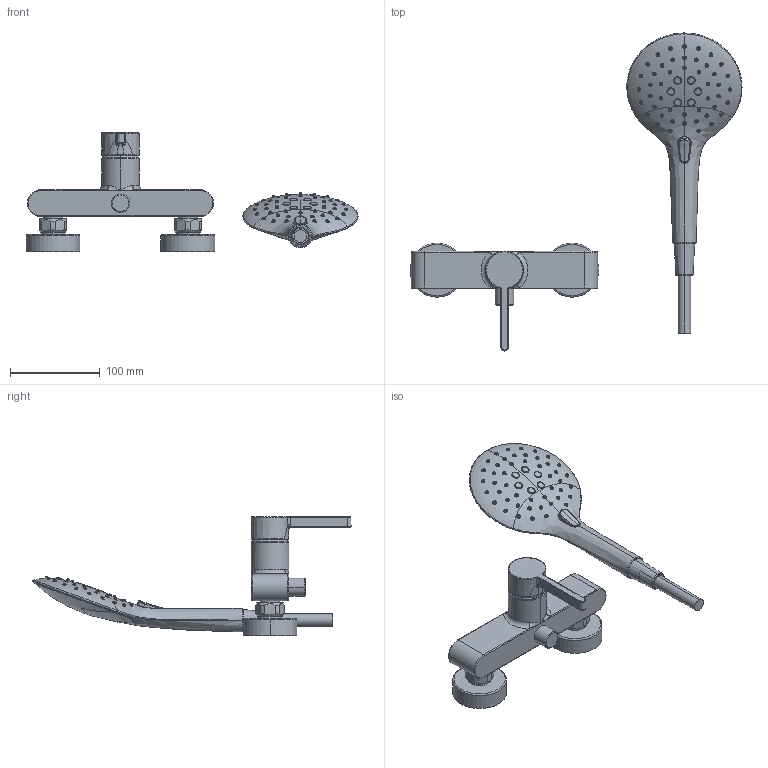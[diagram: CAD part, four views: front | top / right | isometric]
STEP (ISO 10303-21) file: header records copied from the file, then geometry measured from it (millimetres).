
FILE_DESCRIPTION((''),'2;1');
FILE_NAME('21422330','2018-10-09T',('DB991'),(''),'CREO PARAMETRIC BY PTC INC, 2016260','CREO PARAMETRIC BY PTC INC, 2016260','');
FILE_SCHEMA(('CONFIG_CONTROL_DESIGN'));
Length unit declared in the file: millimetre
Products named in the file (1): 21422330
Bounding box: 368.97 x 353.57 x 132.4 mm (x, y, z)
Volume: 800096.9 mm3; surface area: 110358.5 mm2
Topology: 2 solids, 4 shells, 777 faces, 1890 edges, 1225 vertices
Faces by surface type: cone 307, bspline 184, torus 140, cylinder 75, plane 59, sphere 6, extrusion 4, revolution 2
Entity records: 34850 total; most frequent: CARTESIAN_POINT 17640, ORIENTED_EDGE 3768, DIRECTION 3307, EDGE_CURVE 1884, AXIS2_PLACEMENT_3D 1438, VERTEX_POINT 1225, EDGE_LOOP 891, CIRCLE 851
